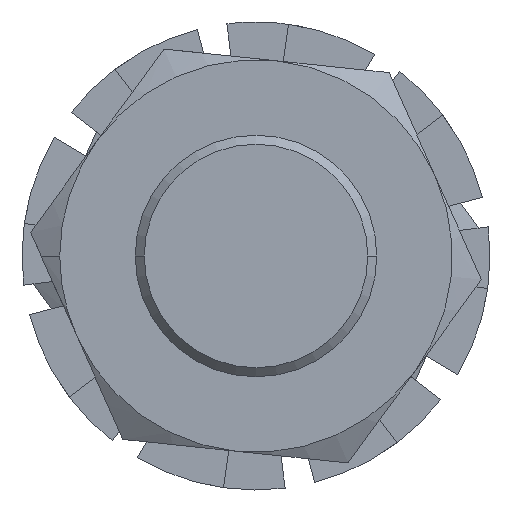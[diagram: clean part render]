
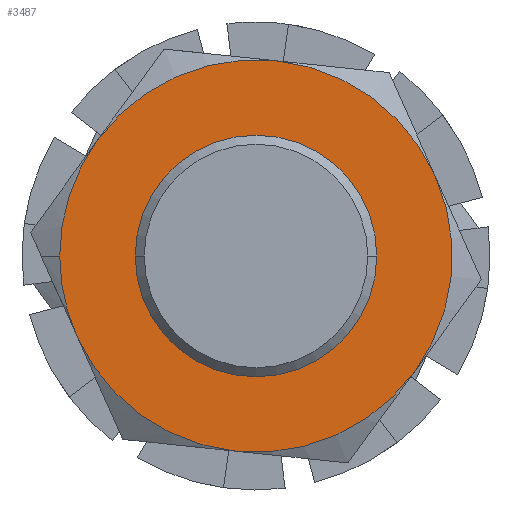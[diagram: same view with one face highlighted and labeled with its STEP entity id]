
A CAD part, left-side view. The second image highlights one B-rep face of the part: STEP entity #3487.
In plain terms, the highlighted planar face has unit normal (-1, 0, 0).
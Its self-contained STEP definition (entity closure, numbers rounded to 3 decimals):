
#19 = DIRECTION ( 'NONE',  ( 0., 1., 0. ) ) ;
#142 = AXIS2_PLACEMENT_3D ( 'NONE', #6482, #3276, #19 ) ;
#157 = CARTESIAN_POINT ( 'NONE',  ( 23.969, 0., 0. ) ) ;
#227 = CARTESIAN_POINT ( 'NONE',  ( 23.969, 0., 0. ) ) ;
#244 = ORIENTED_EDGE ( 'NONE', *, *, #3916, .T. ) ;
#314 = CARTESIAN_POINT ( 'NONE',  ( 23.969, -0.677, 6.465 ) ) ;
#324 = CARTESIAN_POINT ( 'NONE',  ( 23.969, 6.5, 0. ) ) ;
#373 = FACE_BOUND ( 'NONE', #3566, .T. ) ;
#414 = DIRECTION ( 'NONE',  ( 0., 0., 1. ) ) ;
#445 = VERTEX_POINT ( 'NONE', #5082 ) ;
#556 = EDGE_CURVE ( 'NONE', #6988, #6100, #3261, .T. ) ;
#717 = DIRECTION ( 'NONE',  ( 0., 1., 0. ) ) ;
#780 = DIRECTION ( 'NONE',  ( 0., 1., 0. ) ) ;
#895 = CIRCLE ( 'NONE', #973, 6.5 ) ;
#927 = CARTESIAN_POINT ( 'NONE',  ( 23.969, 0., 0. ) ) ;
#973 = AXIS2_PLACEMENT_3D ( 'NONE', #157, #3957, #717 ) ;
#1058 = CIRCLE ( 'NONE', #6507, 6.5 ) ;
#1070 = EDGE_CURVE ( 'NONE', #2935, #6893, #5146, .T. ) ;
#1154 = EDGE_CURVE ( 'NONE', #445, #4128, #5735, .T. ) ;
#1208 = EDGE_CURVE ( 'NONE', #2472, #5411, #2717, .T. ) ;
#1222 = DIRECTION ( 'NONE',  ( -1., 0., 0. ) ) ;
#1252 = ORIENTED_EDGE ( 'NONE', *, *, #1208, .T. ) ;
#1351 = EDGE_CURVE ( 'NONE', #6008, #2935, #1683, .T. ) ;
#1463 = DIRECTION ( 'NONE',  ( 0., 1., 0. ) ) ;
#1589 = AXIS2_PLACEMENT_3D ( 'NONE', #6733, #5128, #1892 ) ;
#1595 = CARTESIAN_POINT ( 'NONE',  ( 23.969, 0., 0. ) ) ;
#1607 = ORIENTED_EDGE ( 'NONE', *, *, #556, .F. ) ;
#1658 = EDGE_LOOP ( 'NONE', ( #2580, #244, #1252, #4708, #3187, #5572, #2013 ) ) ;
#1683 = CIRCLE ( 'NONE', #2191, 6.5 ) ;
#1784 = CARTESIAN_POINT ( 'NONE',  ( 23.969, 0., 0. ) ) ;
#1892 = DIRECTION ( 'NONE',  ( 0., 0., 1. ) ) ;
#1975 = DIRECTION ( 'NONE',  ( -1., 0., 0. ) ) ;
#2013 = ORIENTED_EDGE ( 'NONE', *, *, #4560, .T. ) ;
#2130 = DIRECTION ( 'NONE',  ( 0., 1., 0. ) ) ;
#2191 = AXIS2_PLACEMENT_3D ( 'NONE', #927, #4687, #1463 ) ;
#2327 = DIRECTION ( 'NONE',  ( 0., 1., 0. ) ) ;
#2379 = CARTESIAN_POINT ( 'NONE',  ( 23.969, 0.677, -6.465 ) ) ;
#2472 = VERTEX_POINT ( 'NONE', #314 ) ;
#2580 = ORIENTED_EDGE ( 'NONE', *, *, #1154, .T. ) ;
#2717 = CIRCLE ( 'NONE', #5215, 6.5 ) ;
#2935 = VERTEX_POINT ( 'NONE', #3287 ) ;
#2972 = AXIS2_PLACEMENT_3D ( 'NONE', #5210, #1975, #5746 ) ;
#3080 = FACE_OUTER_BOUND ( 'NONE', #1658, .T. ) ;
#3187 = ORIENTED_EDGE ( 'NONE', *, *, #1351, .T. ) ;
#3261 = CIRCLE ( 'NONE', #2972, 4. ) ;
#3276 = DIRECTION ( 'NONE',  ( -1., 0., 0. ) ) ;
#3287 = CARTESIAN_POINT ( 'NONE',  ( 23.969, 5.937, -2.646 ) ) ;
#3487 = ADVANCED_FACE ( 'NONE', ( #373, #3080 ), #4589, .T. ) ;
#3566 = EDGE_LOOP ( 'NONE', ( #6502, #1607 ) ) ;
#3657 = DIRECTION ( 'NONE',  ( -1., 0., 0. ) ) ;
#3881 = CARTESIAN_POINT ( 'NONE',  ( 23.969, -5.937, 2.646 ) ) ;
#3916 = EDGE_CURVE ( 'NONE', #4128, #2472, #1058, .T. ) ;
#3957 = DIRECTION ( 'NONE',  ( -1., 0., 0. ) ) ;
#3961 = EDGE_CURVE ( 'NONE', #5411, #6008, #895, .T. ) ;
#4020 = DIRECTION ( 'NONE',  ( -1., 0., 0. ) ) ;
#4128 = VERTEX_POINT ( 'NONE', #3881 ) ;
#4150 = AXIS2_PLACEMENT_3D ( 'NONE', #1784, #5556, #2327 ) ;
#4402 = AXIS2_PLACEMENT_3D ( 'NONE', #1595, #5368, #2130 ) ;
#4436 = CARTESIAN_POINT ( 'NONE',  ( 23.969, 0., 0. ) ) ;
#4560 = EDGE_CURVE ( 'NONE', #6893, #445, #6084, .T. ) ;
#4589 = PLANE ( 'NONE',  #1589 ) ;
#4687 = DIRECTION ( 'NONE',  ( -1., 0., 0. ) ) ;
#4708 = ORIENTED_EDGE ( 'NONE', *, *, #3961, .T. ) ;
#4713 = CARTESIAN_POINT ( 'NONE',  ( 23.969, 4., 0. ) ) ;
#4981 = DIRECTION ( 'NONE',  ( 0., 0., -1. ) ) ;
#5082 = CARTESIAN_POINT ( 'NONE',  ( 23.969, -5.26, -3.818 ) ) ;
#5128 = DIRECTION ( 'NONE',  ( -1., 0., 0. ) ) ;
#5146 = CIRCLE ( 'NONE', #142, 6.5 ) ;
#5210 = CARTESIAN_POINT ( 'NONE',  ( 23.969, 0., 0. ) ) ;
#5215 = AXIS2_PLACEMENT_3D ( 'NONE', #227, #4020, #780 ) ;
#5301 = EDGE_CURVE ( 'NONE', #6100, #6988, #6455, .T. ) ;
#5368 = DIRECTION ( 'NONE',  ( -1., 0., 0. ) ) ;
#5411 = VERTEX_POINT ( 'NONE', #6957 ) ;
#5556 = DIRECTION ( 'NONE',  ( -1., 0., 0. ) ) ;
#5572 = ORIENTED_EDGE ( 'NONE', *, *, #1070, .T. ) ;
#5735 = CIRCLE ( 'NONE', #4150, 6.5 ) ;
#5746 = DIRECTION ( 'NONE',  ( 0., 0., 1. ) ) ;
#6008 = VERTEX_POINT ( 'NONE', #324 ) ;
#6084 = CIRCLE ( 'NONE', #4402, 6.5 ) ;
#6100 = VERTEX_POINT ( 'NONE', #4713 ) ;
#6356 = CARTESIAN_POINT ( 'NONE',  ( 23.969, -4., 0. ) ) ;
#6455 = CIRCLE ( 'NONE', #6549, 4. ) ;
#6482 = CARTESIAN_POINT ( 'NONE',  ( 23.969, 0., 0. ) ) ;
#6502 = ORIENTED_EDGE ( 'NONE', *, *, #5301, .F. ) ;
#6507 = AXIS2_PLACEMENT_3D ( 'NONE', #4436, #1222, #4981 ) ;
#6549 = AXIS2_PLACEMENT_3D ( 'NONE', #6875, #3657, #414 ) ;
#6733 = CARTESIAN_POINT ( 'NONE',  ( 23.969, 0., 0. ) ) ;
#6875 = CARTESIAN_POINT ( 'NONE',  ( 23.969, 0., 0. ) ) ;
#6893 = VERTEX_POINT ( 'NONE', #2379 ) ;
#6957 = CARTESIAN_POINT ( 'NONE',  ( 23.969, 5.26, 3.818 ) ) ;
#6988 = VERTEX_POINT ( 'NONE', #6356 ) ;
